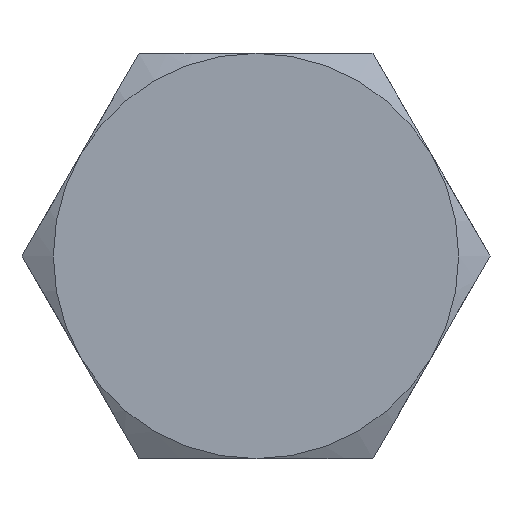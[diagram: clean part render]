
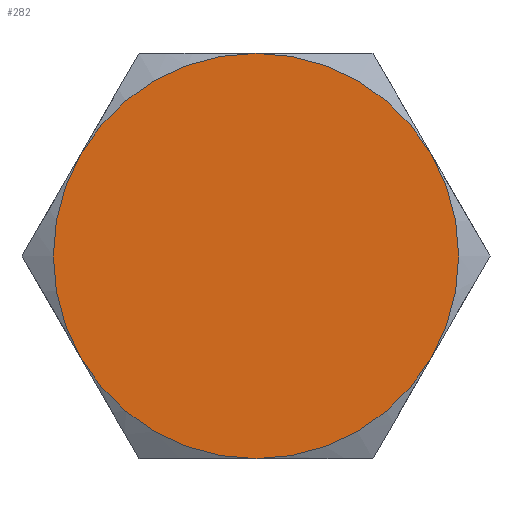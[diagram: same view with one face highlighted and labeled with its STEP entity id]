
A CAD part, left-side view. The second image highlights one B-rep face of the part: STEP entity #282.
In plain terms, the highlighted planar face has unit normal (-1, 0, 0).
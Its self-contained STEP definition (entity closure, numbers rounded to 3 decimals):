
#43=PLANE('',#336);
#90=FACE_OUTER_BOUND('',#109,.T.);
#109=EDGE_LOOP('',(#258,#259,#260,#261,#262,#263));
#117=CIRCLE('',#319,5.);
#118=CIRCLE('',#321,5.);
#119=CIRCLE('',#323,5.);
#120=CIRCLE('',#325,5.);
#121=CIRCLE('',#327,5.);
#122=CIRCLE('',#329,5.);
#136=VERTEX_POINT('',#450);
#137=VERTEX_POINT('',#454);
#139=VERTEX_POINT('',#461);
#141=VERTEX_POINT('',#471);
#143=VERTEX_POINT('',#484);
#145=VERTEX_POINT('',#494);
#164=EDGE_CURVE('',#136,#137,#117,.T.);
#167=EDGE_CURVE('',#139,#136,#118,.T.);
#170=EDGE_CURVE('',#141,#139,#119,.T.);
#172=EDGE_CURVE('',#143,#141,#120,.T.);
#175=EDGE_CURVE('',#145,#143,#121,.T.);
#178=EDGE_CURVE('',#137,#145,#122,.T.);
#258=ORIENTED_EDGE('',*,*,#178,.T.);
#259=ORIENTED_EDGE('',*,*,#175,.T.);
#260=ORIENTED_EDGE('',*,*,#172,.T.);
#261=ORIENTED_EDGE('',*,*,#170,.T.);
#262=ORIENTED_EDGE('',*,*,#167,.T.);
#263=ORIENTED_EDGE('',*,*,#164,.T.);
#282=ADVANCED_FACE('',(#90),#43,.F.);
#319=AXIS2_PLACEMENT_3D('',#458,#373,#374);
#321=AXIS2_PLACEMENT_3D('',#468,#377,#378);
#323=AXIS2_PLACEMENT_3D('',#478,#381,#382);
#325=AXIS2_PLACEMENT_3D('',#485,#385,#386);
#327=AXIS2_PLACEMENT_3D('',#495,#389,#390);
#329=AXIS2_PLACEMENT_3D('',#504,#393,#394);
#336=AXIS2_PLACEMENT_3D('',#520,#413,#414);
#373=DIRECTION('center_axis',(-1.,0.,0.));
#374=DIRECTION('ref_axis',(0.,1.,0.));
#377=DIRECTION('center_axis',(-1.,0.,0.));
#378=DIRECTION('ref_axis',(0.,1.,0.));
#381=DIRECTION('center_axis',(-1.,0.,0.));
#382=DIRECTION('ref_axis',(0.,1.,0.));
#385=DIRECTION('center_axis',(-1.,0.,0.));
#386=DIRECTION('ref_axis',(0.,1.,0.));
#389=DIRECTION('center_axis',(-1.,0.,0.));
#390=DIRECTION('ref_axis',(0.,1.,0.));
#393=DIRECTION('center_axis',(-1.,0.,0.));
#394=DIRECTION('ref_axis',(0.,1.,0.));
#413=DIRECTION('center_axis',(1.,0.,0.));
#414=DIRECTION('ref_axis',(0.,0.,-1.));
#450=CARTESIAN_POINT('',(-4.,4.33,2.5));
#454=CARTESIAN_POINT('',(-4.,4.33,-2.5));
#458=CARTESIAN_POINT('Origin',(-4.,0.,0.));
#461=CARTESIAN_POINT('',(-4.,0.,5.));
#468=CARTESIAN_POINT('Origin',(-4.,0.,0.));
#471=CARTESIAN_POINT('',(-4.,-4.33,2.5));
#478=CARTESIAN_POINT('Origin',(-4.,0.,0.));
#484=CARTESIAN_POINT('',(-4.,-4.33,-2.5));
#485=CARTESIAN_POINT('Origin',(-4.,0.,0.));
#494=CARTESIAN_POINT('',(-4.,0.,-5.));
#495=CARTESIAN_POINT('Origin',(-4.,0.,0.));
#504=CARTESIAN_POINT('Origin',(-4.,0.,0.));
#520=CARTESIAN_POINT('Origin',(-4.,0.,0.));
